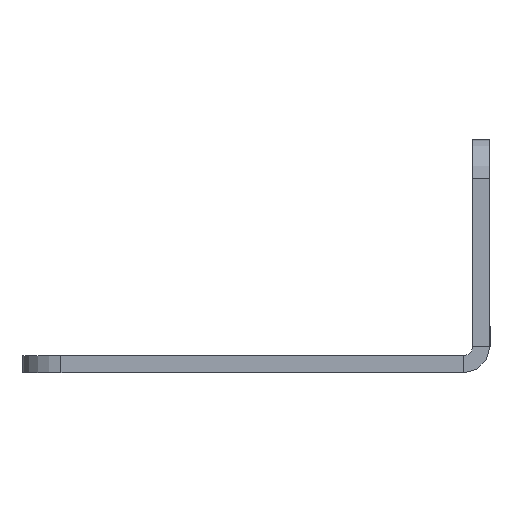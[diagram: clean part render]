
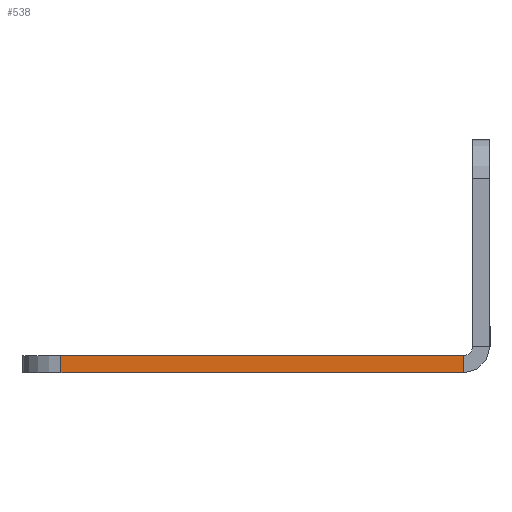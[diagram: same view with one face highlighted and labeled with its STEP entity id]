
A CAD part, left-side view. The second image highlights one B-rep face of the part: STEP entity #538.
In plain terms, the highlighted planar face has unit normal (-1, 0, 0).
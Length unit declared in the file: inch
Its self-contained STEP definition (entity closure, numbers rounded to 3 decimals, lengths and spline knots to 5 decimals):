
#441=CARTESIAN_POINT('',(-59.75,-0.664,0.0));
#442=VERTEX_POINT('',#441);
#449=CARTESIAN_POINT('',(-59.75,0.625,0.0));
#450=VERTEX_POINT('',#449);
#451=CARTESIAN_POINT('',(-59.75,-0.664,0.0));
#452=DIRECTION('',(0.0,1.0,0.0));
#453=VECTOR('',#452,1.289);
#454=LINE('',#451,#453);
#455=EDGE_CURVE('',#442,#450,#454,.T.);
#495=CARTESIAN_POINT('',(-59.75,0.625,0.055));
#496=VERTEX_POINT('',#495);
#506=CARTESIAN_POINT('',(-59.75,0.625,0.0));
#507=DIRECTION('',(0.0,0.0,1.0));
#508=VECTOR('',#507,0.055);
#509=LINE('',#506,#508);
#510=EDGE_CURVE('',#450,#496,#509,.T.);
#515=CARTESIAN_POINT('',(-59.75,-0.75,0.0));
#516=DIRECTION('',(-1.0,0.0,0.0));
#517=DIRECTION('',(0.0,0.0,1.0));
#518=AXIS2_PLACEMENT_3D('',#515,#516,#517);
#519=PLANE('',#518);
#520=ORIENTED_EDGE('',*,*,#510,.F.);
#521=ORIENTED_EDGE('',*,*,#455,.F.);
#522=CARTESIAN_POINT('',(-59.75,-0.664,0.055));
#523=VERTEX_POINT('',#522);
#524=CARTESIAN_POINT('',(-59.75,-0.664,0.0));
#525=DIRECTION('',(0.0,0.0,1.0));
#526=VECTOR('',#525,0.055);
#527=LINE('',#524,#526);
#528=EDGE_CURVE('',#442,#523,#527,.T.);
#529=ORIENTED_EDGE('',*,*,#528,.T.);
#530=CARTESIAN_POINT('',(-59.75,-0.664,0.055));
#531=DIRECTION('',(0.0,1.0,0.0));
#532=VECTOR('',#531,1.289);
#533=LINE('',#530,#532);
#534=EDGE_CURVE('',#523,#496,#533,.T.);
#535=ORIENTED_EDGE('',*,*,#534,.T.);
#536=EDGE_LOOP('',(#520,#521,#529,#535));
#537=FACE_OUTER_BOUND('',#536,.T.);
#538=ADVANCED_FACE('',(#537),#519,.T.);
